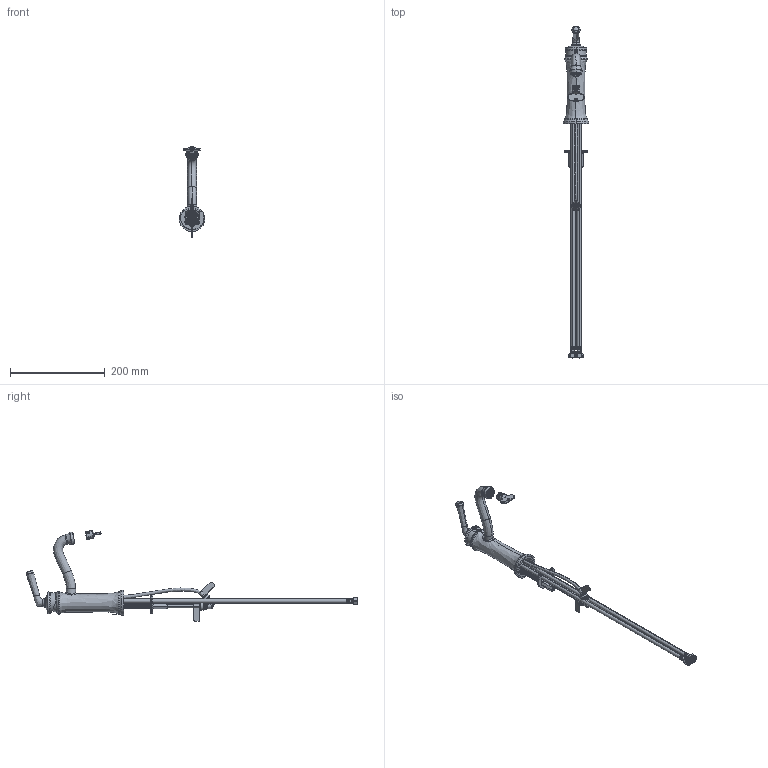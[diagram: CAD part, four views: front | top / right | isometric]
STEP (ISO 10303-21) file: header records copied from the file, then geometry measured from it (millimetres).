
FILE_DESCRIPTION (( 'STEP AP214' ), '1' );
FILE_NAME ('SLS5812PP(LN-08638).STEP', '2025-11-20T11:45:06', ( '' ), ( '' ), 'SwSTEP 2.0', 'SolidWorks 2023', '' );
FILE_SCHEMA (( 'AUTOMOTIVE_DESIGN' ));
Length unit declared in the file: metre
Products named in the file (1): SLS5812PP(LN-08638)
Bounding box: 53.98 x 701.61 x 191.82 mm (x, y, z)
Surface area: 116754.2 mm2 (no closed solid volume)
Topology: 0 solids, 79 shells, 834 faces, 5721 edges, 4838 vertices
Faces by surface type: cylinder 254, plane 240, bspline 125, torus 114, cone 90, sphere 11
Entity records: 103447 total; most frequent: CARTESIAN_POINT 65542, ORIENTED_EDGE 7210, DIRECTION 6330, EDGE_CURVE 5717, VERTEX_POINT 4837, LINE 2260, VECTOR 2260, B_SPLINE_CURVE_WITH_KNOTS 2106
